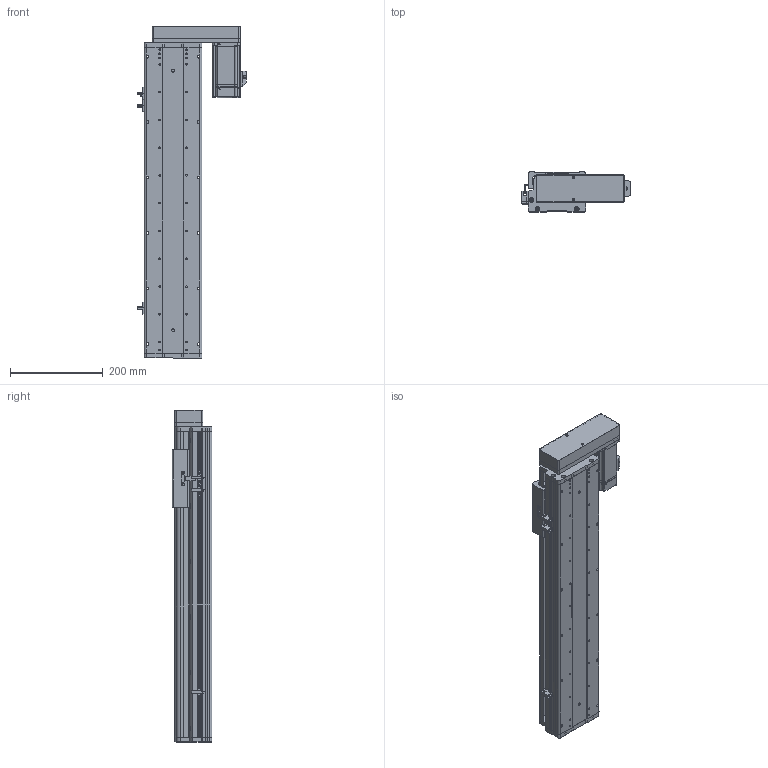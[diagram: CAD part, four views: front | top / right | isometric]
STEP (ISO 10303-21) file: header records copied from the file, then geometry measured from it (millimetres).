
FILE_DESCRIPTION (( 'STEP AP214' ), '1' );
FILE_NAME ('KSD125S-S450-MR-CM.STEP', '2017-10-21T08:55:39', ( '微软用户' ), ( '微软中国' ), 'SwSTEP 2.0', 'SolidWorks 2014', '' );
FILE_SCHEMA (( 'AUTOMOTIVE_DESIGN' ));
Length unit declared in the file: millimetre
Products named in the file (16): KSD125S-S450-MR-CM; HTPA30S3M150_A_H6_a佪裝蚚; HTPA30S3M150_A_H6_a萇儂蚚; 125宽马达安装板连板左右折丝杆; 125悵誘欶酘衵殏; KSD125S-450俴最佪裝滅鳥裔; KSD125S-450俴最佪裝菁啣; MHMD042G1CA_2_03; 拸萇儂釱滅袉菜; 拸萇儂釱滅袉菜-1; 覜茼え68遵圉猾敕; U倰嫖萇假蚾璃; U倰嫖萇EEㄜSX672; ヶ傷啣-125遵耀郪; KSD125-賑雄釱1; 125-帣傷啣1
Assembly tree (19 placements, depth 2):
  KSD125S-S450-MR-CM
    125-帣傷啣1
    KSD125-賑雄釱1
    ヶ傷啣-125遵耀郪
    U倰嫖萇EEㄜSX672  x3
    U倰嫖萇假蚾璃  x3
    覜茼え68遵圉猾敕
    拸萇儂釱滅袉菜-1
    拸萇儂釱滅袉菜
    MHMD042G1CA_2_03
    KSD125S-450俴最佪裝菁啣
    KSD125S-450俴最佪裝滅鳥裔
    125悵誘欶酘衵殏
    125宽马达安装板连板左右折丝杆
    HTPA30S3M150_A_H6_a萇儂蚚
    HTPA30S3M150_A_H6_a佪裝蚚
Bounding box: 234.2 x 86 x 717.5 mm (x, y, z)
Volume: 2508546.5 mm3; surface area: 874708.8 mm2
Topology: 18 solids, 21 shells, 2183 faces, 6327 edges, 4173 vertices
Faces by surface type: cylinder 1362, plane 680, cone 119, bspline 22
Entity records: 76853 total; most frequent: CARTESIAN_POINT 15637, DIRECTION 12001, ORIENTED_EDGE 11162, EDGE_CURVE 5659, AXIS2_PLACEMENT_3D 4635, VERTEX_POINT 3765, LINE 2731, VECTOR 2731
